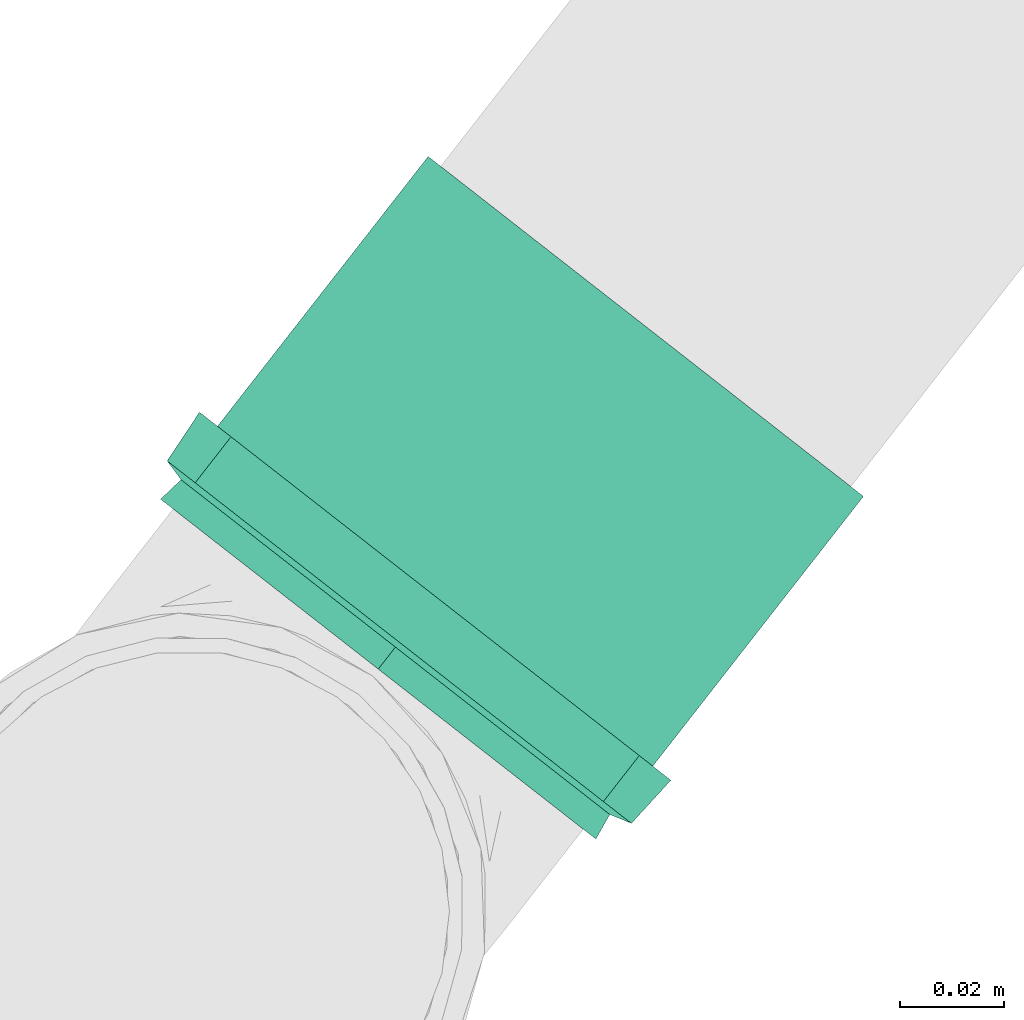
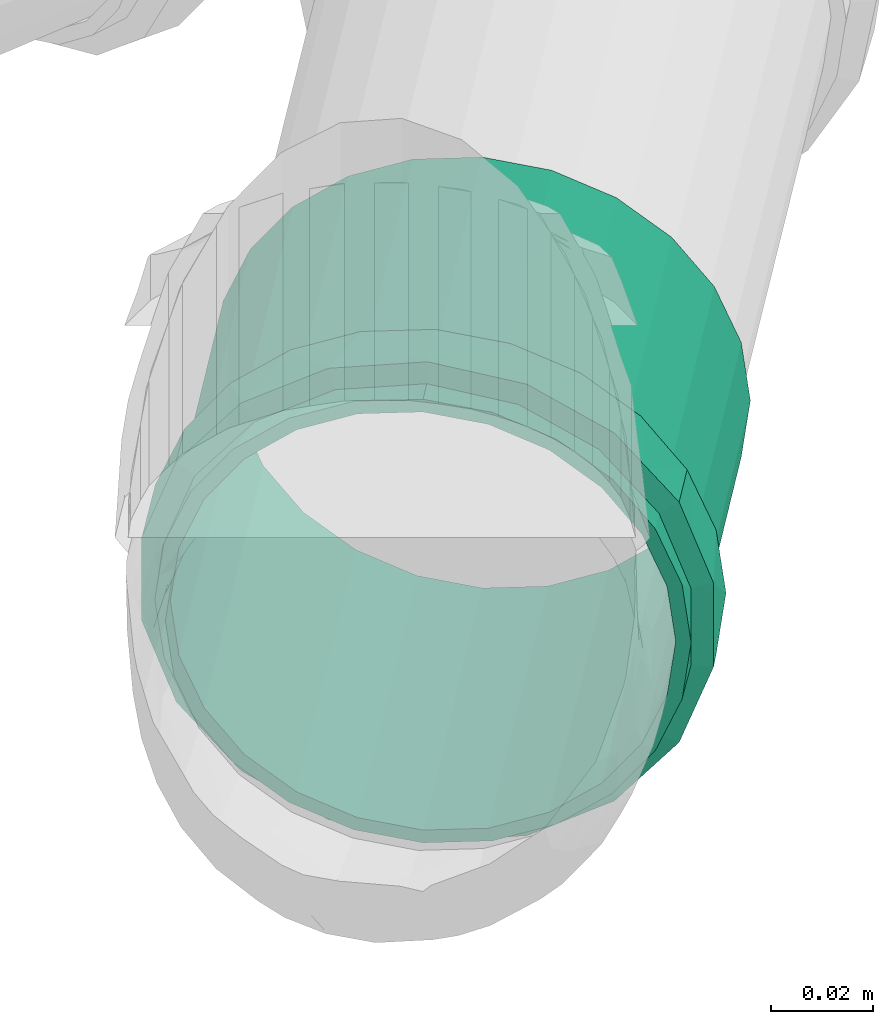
# One storey, part 23 of 97: 1 flow fitting.
"""IFC2X3 building model written with IfcOpenShell, lengths in centimetres."""

import ifcopenshell
import ifcopenshell.guid

model = None  # the IFC model being written
_history = None  # IfcOwnerHistory: only IFC2X3 demands one
_inside = {}  # id of a spatial element -> (the spatial element, [elements in it])
_under = {}  # id of a project, library or spatial element -> (it, [spatial elements below it])
_declared = {}  # id of a project -> (the project, [libraries it declares])
_typed = {}  # id of a type object -> (the type object, [elements of that type])
_made_of = {}  # id of a material, layer set ... -> (it, [elements and type objects made of it])


def new_model(schema):
    """Start an empty IFC model of exactly this schema.

    Asked for "IFC4X3", IfcOpenShell would pick the latest addendum, in which some entities
    have other attributes; the version numbers below select the first issue.
    IFC2X3 requires an IfcOwnerHistory on every rooted entity: one is made here for all.
    """
    global model, _history
    if schema == "IFC4X3":
        model = ifcopenshell.file(schema_version=(4, 3, 0, 0))
    else:
        model = ifcopenshell.file(schema=schema)
    _inside.clear()
    _under.clear()
    _declared.clear()
    _typed.clear()
    _made_of.clear()
    _history = None
    if model.schema == "IFC2X3":
        org = make("IfcOrganization", Name="unknown")
        user = make(
            "IfcPersonAndOrganization",
            ThePerson=make("IfcPerson", FamilyName="unknown"),
            TheOrganization=org,
        )
        app = make(
            "IfcApplication",
            ApplicationDeveloper=org,
            Version="unknown",
            ApplicationFullName="unknown",
            ApplicationIdentifier="unknown",
        )
        _history = make(
            "IfcOwnerHistory",
            OwningUser=user,
            OwningApplication=app,
            ChangeAction="ADDED",
            CreationDate=0,
        )
    return model


def make(cls, **values):
    """One entity of the class cls with the attributes given. An attribute that is None is left unset."""
    return model.create_entity(
        cls, **{name: value for name, value in values.items() if value is not None}
    )


def entity(cls, *values):
    """Any entity or typed value of the class cls, its attributes in the order of the schema. None: left unset."""
    e = model.create_entity(cls)
    for i, value in enumerate(values):
        if value is not None:
            e[i] = value
    return e


def rooted(cls, **values):
    """An entity with a GlobalId (a new one), such as an element, a storey or a relation."""
    return make(cls, GlobalId=ifcopenshell.guid.new(), OwnerHistory=_history, **values)


def si_unit(unit_type, name, prefix=None):
    """IfcSIUnit, for example si_unit("LENGTHUNIT", "METRE", prefix="MILLI")."""
    return make("IfcSIUnit", UnitType=unit_type, Prefix=prefix, Name=name)


def converted_unit(unit_type, name, factor, base, dimensions=None, offset=None):
    """IfcConversionBasedUnit, such as the inch: factor (a typed value) times the base unit."""
    return make(
        "IfcConversionBasedUnit"
        if offset is None
        else "IfcConversionBasedUnitWithOffset",
        ConversionOffset=offset,
        Dimensions=None
        if dimensions is None
        else entity("IfcDimensionalExponents", *dimensions),
        UnitType=unit_type,
        Name=name,
        ConversionFactor=make(
            "IfcMeasureWithUnit", ValueComponent=factor, UnitComponent=base
        ),
    )


def derived_unit(unit_type, elements):
    """IfcDerivedUnit: a product of units, each with its exponent."""
    return make(
        "IfcDerivedUnit",
        Elements=[
            make("IfcDerivedUnitElement", Unit=unit, Exponent=power)
            for unit, power in elements
        ],
        UnitType=unit_type,
    )


def assignment(units):
    """IfcUnitAssignment: the units of a project."""
    return None if units is None else make("IfcUnitAssignment", Units=units)


def point(xyz):
    """IfcCartesianPoint."""
    return None if xyz is None else make("IfcCartesianPoint", Coordinates=xyz)


def direction(xyz):
    """IfcDirection."""
    return None if xyz is None else make("IfcDirection", DirectionRatios=xyz)


def frame(location, z_axis=None, x_axis=None):
    """IfcAxis2Placement3D, a coordinate frame: its origin and axes. An axis left out is left unset."""
    return make(
        "IfcAxis2Placement3D",
        Location=point(location),
        Axis=direction(z_axis),
        RefDirection=direction(x_axis),
    )


def origin():
    """The frame at (0, 0, 0) with its axes left unset."""
    return frame((0.0, 0.0, 0.0))


def place(relative_to, where):
    """IfcLocalPlacement: puts the frame where relative to a parent placement (None: the world)."""
    return make(
        "IfcLocalPlacement", PlacementRelTo=relative_to, RelativePlacement=where
    )


def context(
    kind, dimensions, precision=None, world=None, true_north=None, identifier=None
):
    """IfcGeometricRepresentationContext, for example the 3D "Model" context."""
    return make(
        "IfcGeometricRepresentationContext",
        ContextIdentifier=identifier,
        ContextType=kind,
        CoordinateSpaceDimension=dimensions,
        Precision=precision,
        WorldCoordinateSystem=world,
        TrueNorth=true_north,
    )


def subcontext(parent, identifier, kind, view, scale=None):
    """IfcGeometricRepresentationSubContext, for example "Body" below "Model"."""
    return make(
        "IfcGeometricRepresentationSubContext",
        ContextIdentifier=identifier,
        ContextType=kind,
        ParentContext=parent,
        TargetScale=scale,
        TargetView=view,
    )


def project(units=None, contexts=None):
    """IfcProject with its units and contexts."""
    return rooted(
        "IfcProject",
        Name="project",
        RepresentationContexts=contexts,
        UnitsInContext=assignment(units),
    )


def spatial(cls, under=None, at=None, **own):
    """A site, building, storey or space (cls), placed at a placement, below another one or the project."""
    s = rooted(cls, ObjectPlacement=at, **own)
    if under is not None:
        _under.setdefault(under.id(), (under, []))[1].append(s)
    return s


def faces_of(points, faces, orient=None, outer=None):
    """IfcFace entities. A face is a list of loops; a loop is a list of indices into points, from 0.

    orient and outer hold one flag for each loop. By default every Orientation is true, the
    first loop of a face is its IfcFaceOuterBound and the others are IfcFaceBound.
    """
    made = []
    for i, loops in enumerate(faces):
        bounds = []
        for j, loop in enumerate(loops):
            is_outer = j == 0 if outer is None else outer[i][j]
            bounds.append(
                make(
                    "IfcFaceOuterBound" if is_outer else "IfcFaceBound",
                    Bound=make("IfcPolyLoop", Polygon=[points[k] for k in loop]),
                    Orientation=True if orient is None else orient[i][j],
                )
            )
        made.append(make("IfcFace", Bounds=bounds))
    return made


def faceted_brep(points, faces, orient=None, outer=None, voids=None):
    """IfcFacetedBrep: a solid bounded by flat faces; with voids (closed shells), ...WithVoids."""
    shared = [point(p) for p in points]
    hull = make("IfcClosedShell", CfsFaces=faces_of(shared, faces, orient, outer))
    if voids is None:
        return make("IfcFacetedBrep", Outer=hull)
    return make(
        "IfcFacetedBrepWithVoids",
        Outer=hull,
        Voids=[
            make(cls, CfsFaces=faces_of(shared, fs, o, b)) for cls, fs, o, b in voids
        ],
    )


def shape(context_of_items, identifier, shape_type, items):
    """IfcShapeRepresentation: the items that make up one representation, for example the "Body"."""
    return make(
        "IfcShapeRepresentation",
        ContextOfItems=context_of_items,
        RepresentationIdentifier=identifier,
        RepresentationType=shape_type,
        Items=items,
    )


def source(mapping_origin, context_of_items, identifier, shape_type, items):
    """IfcRepresentationMap: a shape defined once, which mapped items show again and again."""
    return make(
        "IfcRepresentationMap",
        MappingOrigin=mapping_origin,
        MappedRepresentation=shape(context_of_items, identifier, shape_type, items),
    )


def transform(
    local_origin,
    x_axis=None,
    y_axis=None,
    z_axis=None,
    scale=None,
    scale2=None,
    scale3=None,
    uniform=True,
):
    """IfcCartesianTransformationOperator3D, or its non-uniform kind. x_axis, y_axis, z_axis: its Axis1, 2, 3."""
    if uniform:
        return make(
            "IfcCartesianTransformationOperator3D",
            Axis1=direction(x_axis),
            Axis2=direction(y_axis),
            LocalOrigin=point(local_origin),
            Scale=scale,
            Axis3=direction(z_axis),
        )
    return make(
        "IfcCartesianTransformationOperator3DnonUniform",
        Axis1=direction(x_axis),
        Axis2=direction(y_axis),
        LocalOrigin=point(local_origin),
        Scale=scale,
        Axis3=direction(z_axis),
        Scale2=scale2,
        Scale3=scale3,
    )


def mapped(mapping_source, mapping_target):
    """IfcMappedItem: shows the shape of a source again, moved by a transform."""
    return make(
        "IfcMappedItem", MappingSource=mapping_source, MappingTarget=mapping_target
    )


def material(Name=None, Category=None):
    """IfcMaterial."""
    return make("IfcMaterial", Name=Name, Category=Category)


def made_of(thing, what):
    """Note that an element or type object is made of a material, layer set ...; save() writes the relation."""
    if what is not None:
        _made_of.setdefault(what.id(), (what, []))[1].append(thing)
    return thing


def type_object(cls, material=None, **own):
    """A type object (cls), such as IfcWallType, which elements share."""
    return made_of(rooted(cls, **own), material)


def type_shapes(of_type, sources):
    """Give a type object the sources (RepresentationMaps) that its elements show as mapped items."""
    of_type.RepresentationMaps = sources


def element(
    cls,
    number,
    at=None,
    inside=None,
    cuts=None,
    type_object=None,
    material=None,
    context=None,
    identifier="Body",
    shape_type=None,
    held_by="IfcProductDefinitionShape",
    body=None,
    shapes=None,
    **own,
):
    """One element of the class cls, such as IfcWall. Its Tag is "e" and its number.

    at: its placement. inside: the storey or other place that contains it. cuts: it is an
    opening in that element (IfcRelVoidsElement). A single representation is given by context,
    identifier, shape_type and body (its items); several are given by shapes. held_by: the class
    of the entity that holds the representations. save() writes the other relations.
    """
    e = rooted(cls, Tag="e%d" % number, ObjectPlacement=at, **own)
    if body is not None:
        shapes = [shape(context, identifier, shape_type, body)]
    if shapes is not None:
        e.Representation = make(held_by, Representations=shapes)
    if inside is not None:
        _inside.setdefault(inside.id(), (inside, []))[1].append(e)
    if cuts is not None:
        rooted(
            "IfcRelVoidsElement", RelatingBuildingElement=cuts, RelatedOpeningElement=e
        )
    if type_object is not None:
        _typed.setdefault(type_object.id(), (type_object, []))[1].append(e)
    return made_of(e, material)


def aggregate(whole, parts):
    """IfcRelAggregates: a whole, such as a stair, and the parts it consists of."""
    return rooted("IfcRelAggregates", RelatingObject=whole, RelatedObjects=parts)


def save(model, path):
    """Write the relations noted so far, then the file.

    IfcRelAggregates (storeys below a building ...), IfcRelContainedInSpatialStructure (elements
    in a storey), IfcRelDefinesByType, IfcRelAssociatesMaterial and IfcRelDeclares: one each for
    every whole, place, type object, material and project.
    """
    for whole, parts in _under.values():
        aggregate(whole, parts)
    for where, things in _inside.values():
        rooted(
            "IfcRelContainedInSpatialStructure",
            RelatedElements=things,
            RelatingStructure=where,
        )
    for kind, things in _typed.values():
        rooted("IfcRelDefinesByType", RelatedObjects=things, RelatingType=kind)
    for what, things in _made_of.values():
        rooted("IfcRelAssociatesMaterial", RelatedObjects=things, RelatingMaterial=what)
    for by, libraries in _declared.values():
        rooted("IfcRelDeclares", RelatingContext=by, RelatedDefinitions=libraries)
    model.write(path)


model = new_model("IFC2X3")

# Units and contexts
model_context = context("Model", 3, precision=0.001, world=origin(), true_north=direction((6.12303176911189e-17, 1.0)))
body_context = subcontext(model_context, "Body", "Model", "MODEL_VIEW")
ifc_project = project(units=[si_unit("LENGTHUNIT", "METRE", prefix="CENTI"), si_unit("AREAUNIT", "SQUARE_METRE"), si_unit("VOLUMEUNIT", "CUBIC_METRE"), converted_unit("PLANEANGLEUNIT", "DEGREE", entity("IfcRatioMeasure", 0.0174532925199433), si_unit("PLANEANGLEUNIT", "RADIAN"), dimensions=[0, 0, 0, 0, 0, 0, 0]), si_unit("MASSUNIT", "GRAM", prefix="KILO"), derived_unit("MASSDENSITYUNIT", [(si_unit("MASSUNIT", "GRAM", prefix="KILO"), 1), (si_unit("LENGTHUNIT", "METRE"), -3)]), derived_unit("MOMENTOFINERTIAUNIT", [(si_unit("LENGTHUNIT", "METRE"), 4)]), si_unit("TIMEUNIT", "SECOND"), si_unit("FREQUENCYUNIT", "HERTZ"), si_unit("THERMODYNAMICTEMPERATUREUNIT", "DEGREE_CELSIUS"), derived_unit("THERMALTRANSMITTANCEUNIT", [(si_unit("MASSUNIT", "GRAM", prefix="KILO"), 1), (si_unit("THERMODYNAMICTEMPERATUREUNIT", "KELVIN"), -1), (si_unit("TIMEUNIT", "SECOND"), -3)]), derived_unit("VOLUMETRICFLOWRATEUNIT", [(si_unit("LENGTHUNIT", "METRE"), 3), (si_unit("TIMEUNIT", "SECOND"), -1)]), si_unit("ELECTRICCURRENTUNIT", "AMPERE"), si_unit("ELECTRICVOLTAGEUNIT", "VOLT"), si_unit("POWERUNIT", "WATT"), si_unit("FORCEUNIT", "NEWTON", prefix="KILO"), si_unit("ILLUMINANCEUNIT", "LUX"), si_unit("LUMINOUSFLUXUNIT", "LUMEN"), si_unit("LUMINOUSINTENSITYUNIT", "CANDELA"), derived_unit("USERDEFINED", [(si_unit("MASSUNIT", "GRAM", prefix="KILO"), -1), (si_unit("LENGTHUNIT", "METRE"), -2), (si_unit("TIMEUNIT", "SECOND"), 3), (si_unit("LUMINOUSFLUXUNIT", "LUMEN"), 1)]), derived_unit("LINEARVELOCITYUNIT", [(si_unit("LENGTHUNIT", "METRE"), 1), (si_unit("TIMEUNIT", "SECOND"), -1)]), si_unit("PRESSUREUNIT", "PASCAL"), derived_unit("USERDEFINED", [(si_unit("LENGTHUNIT", "METRE"), -2), (si_unit("MASSUNIT", "GRAM", prefix="KILO"), 1), (si_unit("TIMEUNIT", "SECOND"), -2)]), derived_unit("LINEARFORCEUNIT", [(si_unit("MASSUNIT", "GRAM", prefix="KILO"), 1), (si_unit("LENGTHUNIT", "METRE"), 1), (si_unit("TIMEUNIT", "SECOND"), -2), (si_unit("LENGTHUNIT", "METRE"), -1)]), derived_unit("PLANARFORCEUNIT", [(si_unit("MASSUNIT", "GRAM", prefix="KILO"), 1), (si_unit("LENGTHUNIT", "METRE"), 1), (si_unit("TIMEUNIT", "SECOND"), -2), (si_unit("LENGTHUNIT", "METRE"), -2)])], contexts=[model_context])

# Site, building, storey
site_placement = place(None, origin())
site = spatial("IfcSite", under=ifc_project, at=site_placement, Name="Default", CompositionType="ELEMENT")
building_placement = place(site_placement, origin())
building = spatial("IfcBuilding", under=site, at=building_placement, Name="HIDROSSANITÁRIO", CompositionType="ELEMENT")
storey_placement = place(building_placement, frame((0.0, 0.0, -260.0)))
storey = spatial("IfcBuildingStorey", under=building, at=storey_placement, Name="TÉRREO-HID", CompositionType="ELEMENT", Elevation=-260.0)

# Flow fitting
ifc_material = material(Name="PVC Branco")
pipe_fitting_type = type_object("IfcPipeFittingType", Name="Luva Simples para Conexão - Serie Normal - Esgoto - MEP - Tigre:Standard", PredefinedType="NOTDEFINED", material=ifc_material)
shared_shape = source(origin(), body_context, "Body", "Brep", [
    faceted_brep([(1.77700000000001, 2.8725, -4.9753159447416), (1.77700000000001, 4.06232845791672, -4.06232845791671), (1.77700000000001, 2.65249999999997, -4.59426476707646), (1.77700000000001, 1.37303503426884, -5.12423650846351), (1.77700000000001, 1.48691541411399, -5.5492438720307), (1.77700000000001, 3.75120147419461, -3.75120147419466), (1.77700000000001, 4.9753159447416, -2.8725), (1.77700000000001, 4.59426476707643, -2.65250000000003), (1.77700000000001, 5.1242365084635, -1.37303503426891), (1.77700000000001, 5.5492438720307, -1.48691541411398), (1.77700000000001, 5.305, 0.0), (1.77700000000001, 5.745, 0.0), (1.77700000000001, 5.1242365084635, 1.3730350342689), (1.77700000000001, 5.54924387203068, 1.48691541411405), (1.77700000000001, 4.59426476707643, 2.65250000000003), (1.77700000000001, 4.97531594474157, 2.87250000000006), (1.77700000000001, 3.75120147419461, 3.75120147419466), (1.77700000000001, 4.06232845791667, 4.06232845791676), (1.77700000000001, 2.65249999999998, 4.59426476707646), (1.77700000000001, 2.87249999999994, 4.97531594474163), (1.77700000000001, 1.37303503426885, 5.12423650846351), (1.77700000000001, 1.48691541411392, 5.54924387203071), (1.77700000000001, 0.0, 5.305), (1.77700000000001, 0.0, 5.745), (1.77700000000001, -1.37303503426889, 5.1242365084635), (1.77700000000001, -1.48691541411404, 5.54924387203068), (1.77700000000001, -2.65250000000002, 4.59426476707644), (1.77700000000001, -2.87250000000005, 4.97531594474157), (1.77700000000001, -3.75120147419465, 3.75120147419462), (1.77700000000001, -4.06232845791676, 4.06232845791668), (1.77700000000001, -4.59426476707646, 2.65249999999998), (1.77700000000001, -4.97531594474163, 2.87249999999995), (1.77700000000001, -5.54924387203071, 1.48691541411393), (1.77700000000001, -5.12423650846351, 1.37303503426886), (1.77700000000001, -5.745, 0.0), (1.77700000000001, -5.305, 0.0), (1.77700000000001, -5.54924387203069, -1.486915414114), (1.77700000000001, -5.12423650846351, -1.37303503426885), (1.77700000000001, -4.97531594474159, -2.87250000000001), (1.77700000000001, -4.59426476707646, -2.65249999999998), (1.77700000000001, -4.06232845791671, -4.06232845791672), (1.77700000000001, -3.75120147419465, -3.75120147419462), (1.77700000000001, -2.87249999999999, -4.97531594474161), (1.77700000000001, -2.65250000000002, -4.59426476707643), (1.77700000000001, -1.48691541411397, -5.5492438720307), (1.77700000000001, -1.3730350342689, -5.1242365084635), (1.77700000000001, 0.0, -5.745), (1.77700000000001, 0.0, -5.305), (0.657000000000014, -1.93463887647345, 5.31665771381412), (0.657000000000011, -4.4007619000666, 3.69300957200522), (0.657000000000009, -4.89962626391, 2.82901737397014), (0.657000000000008, -5.39849062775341, 1.96502517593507), (0.657000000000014, -2.87216972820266, 4.97550661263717), (0.657000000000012, -3.63646581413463, 4.3342580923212), (0.657000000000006, -5.5717453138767, 0.982512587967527), (0.657000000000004, -5.745, 0.0), (0.657000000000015, -0.997108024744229, 5.65780881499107), (0.657000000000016, 0.998234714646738, 5.65761013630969), (0.657000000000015, 0.0005633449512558, 5.65770947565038), (0.657000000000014, 3.63732887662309, 4.33353383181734), (0.657000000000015, 1.93569761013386, 5.31627233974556), (0.657000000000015, 2.87316050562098, 4.97493454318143), (0.65700000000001, 5.39888184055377, 1.96395006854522), (0.657000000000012, 4.90018954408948, 2.82804159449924), (0.657000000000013, 4.40149724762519, 3.69213312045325), (0.657000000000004, 5.745, 0.0), (0.656999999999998, 4.40149724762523, -3.6921331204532), (0.657, 4.90018954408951, -2.82804159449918), (0.657000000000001, 5.39888184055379, -1.96395006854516), (0.656999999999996, 2.87316050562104, -4.9749345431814), (0.656999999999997, 3.63732887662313, -4.3335338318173), (0.656999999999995, 1.93569761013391, -5.31627233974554), (0.656999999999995, 0.998234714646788, -5.65761013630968), (0.656999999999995, -0.997108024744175, -5.65780881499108), (0.656999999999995, 0.000563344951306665, -5.65770947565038), (0.656999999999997, -3.6364658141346, -4.33425809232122), (0.656999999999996, -2.87216972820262, -4.9755066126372), (0.656999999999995, -1.9346388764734, -5.31665771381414), (0.657000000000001, -5.39849062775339, -1.96502517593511), (0.657, -4.89962626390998, -2.82901737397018), (0.656999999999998, -4.40076190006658, -3.69300957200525), (0.657000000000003, -5.5717453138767, -0.982512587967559), (8.35200000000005, 2.6525, -4.59426476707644), (8.35200000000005, 3.75120147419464, -3.75120147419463), (8.35200000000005, 2.49999999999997, -4.33012701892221), (8.35200000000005, 1.29409522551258, -4.82962913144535), (8.35200000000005, 1.37303503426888, -5.1242365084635), (8.35200000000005, 3.53553390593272, -3.53553390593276), (8.35200000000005, 4.59426476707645, -2.6525), (8.35200000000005, 4.33012701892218, -2.50000000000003), (8.35200000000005, 4.82962913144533, -1.29409522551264), (8.35200000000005, 5.12423650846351, -1.37303503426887), (8.35200000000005, 5.0, 0.0), (8.35200000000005, 5.305, 0.0), (8.35200000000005, 4.82962913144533, 1.29409522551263), (8.35200000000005, 5.12423650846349, 1.37303503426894), (8.35200000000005, 4.33012701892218, 2.50000000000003), (8.35200000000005, 4.59426476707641, 2.65250000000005), (8.35200000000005, 3.53553390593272, 3.53553390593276), (8.35200000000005, 3.75120147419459, 3.75120147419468), (8.35200000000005, 2.49999999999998, 4.33012701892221), (8.35200000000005, 2.65249999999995, 4.59426476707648), (8.35200000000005, 1.29409522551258, 4.82962913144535), (8.35200000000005, 1.37303503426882, 5.12423650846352), (8.35200000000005, 0.0, 5.0), (8.35200000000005, 0.0, 5.305), (8.35200000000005, -1.29409522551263, 4.82962913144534), (8.35200000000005, -1.37303503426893, 5.12423650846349), (8.35200000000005, -2.50000000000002, 4.33012701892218), (8.35200000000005, -2.65250000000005, 4.59426476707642), (8.35200000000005, -3.53553390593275, 3.53553390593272), (8.35200000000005, -3.75120147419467, 3.7512014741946), (8.35200000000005, -4.3301270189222, 2.49999999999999), (8.35200000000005, -4.59426476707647, 2.65249999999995), (8.35200000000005, -5.12423650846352, 1.37303503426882), (8.35200000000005, -4.82962913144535, 1.29409522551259), (8.35200000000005, -5.305, 0.0), (8.35200000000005, -5.0, 0.0), (8.35200000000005, -5.1242365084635, -1.37303503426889), (8.35200000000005, -4.82962913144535, -1.29409522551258), (8.35200000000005, -4.59426476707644, -2.65250000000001), (8.35200000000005, -4.3301270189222, -2.49999999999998), (8.35200000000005, -3.75120147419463, -3.75120147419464), (8.35200000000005, -3.53553390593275, -3.53553390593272), (8.35200000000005, -2.65249999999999, -4.59426476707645), (8.35200000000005, -2.50000000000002, -4.33012701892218), (8.35200000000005, -1.37303503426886, -5.12423650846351), (8.35200000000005, -1.29409522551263, -4.82962913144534), (8.35200000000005, 0.0, -5.305), (8.35200000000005, 0.0, -5.0), (0.0, 2.49999999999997, -4.33012701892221), (0.0, 3.75120147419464, -3.75120147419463), (0.0, 2.6525, -4.59426476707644), (0.0, 1.29409522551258, -4.82962913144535), (0.0, 3.53553390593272, -3.53553390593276), (0.0, 4.59426476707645, -2.6525), (0.0, 4.33012701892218, -2.50000000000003), (0.0, 4.82962913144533, -1.29409522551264), (0.0, 5.12423650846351, -1.37303503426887), (0.0, 5.0, 0.0), (0.0, 5.305, 0.0), (0.0, 4.82962913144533, 1.29409522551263), (0.0, 5.12423650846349, 1.37303503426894), (0.0, 4.33012701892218, 2.50000000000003), (0.0, 4.59426476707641, 2.65250000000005), (0.0, 3.53553390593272, 3.53553390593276), (0.0, 3.75120147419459, 3.75120147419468), (0.0, 2.49999999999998, 4.33012701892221), (0.0, 2.65249999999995, 4.59426476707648), (0.0, 1.29409522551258, 4.82962913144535), (0.0, 1.37303503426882, 5.12423650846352), (0.0, 0.0, 5.0), (0.0, 0.0, 5.305), (0.0, -1.29409522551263, 4.82962913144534), (0.0, -1.37303503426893, 5.12423650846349), (0.0, -2.50000000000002, 4.33012701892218), (0.0, -2.65250000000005, 4.59426476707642), (0.0, -3.53553390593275, 3.53553390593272), (0.0, -3.75120147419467, 3.7512014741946), (0.0, -4.3301270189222, 2.49999999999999), (0.0, -4.59426476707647, 2.65249999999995), (0.0, -5.12423650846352, 1.37303503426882), (0.0, -4.82962913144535, 1.29409522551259), (0.0, -5.305, 0.0), (0.0, -5.0, 0.0), (0.0, -5.1242365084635, -1.37303503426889), (0.0, -4.82962913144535, -1.29409522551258), (0.0, -4.59426476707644, -2.65250000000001), (0.0, -4.3301270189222, -2.49999999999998), (0.0, -3.75120147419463, -3.75120147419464), (0.0, -3.53553390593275, -3.53553390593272), (0.0, -2.65249999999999, -4.59426476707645), (0.0, -2.50000000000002, -4.33012701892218), (0.0, -1.37303503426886, -5.12423650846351), (0.0, -1.29409522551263, -4.82962913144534), (0.0, 0.0, -5.305), (0.0, 0.0, -5.0), (0.0, 1.37303503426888, -5.1242365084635), (0.537000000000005, -5.305, 0.0), (0.537000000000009, -4.98507989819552, 1.81438788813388), (0.537000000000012, -4.06390540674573, 3.4099410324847), (0.537000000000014, -2.65258010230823, 4.59421851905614), (0.537000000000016, -0.921325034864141, 5.22438371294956), (0.537000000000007, 5.1449924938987, 0.907324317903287), (0.537000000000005, 5.305, 0.0), (0.537000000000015, 2.65233979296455, 4.59435725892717), (0.537000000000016, 0.921051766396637, 5.22443189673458), (0.537000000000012, 4.06372704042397, 3.41015359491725), (0.537000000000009, 4.9849849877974, 1.81464863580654), (0.537000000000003, 5.14499249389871, -0.907324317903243), (0.537000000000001, 4.98498498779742, -1.81464863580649), (0.536999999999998, 4.063727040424, -3.41015359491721), (0.536999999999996, 2.6523397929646, -4.59435725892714), (0.536999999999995, 0.921051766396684, -5.22443189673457), (0.536999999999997, -2.6525801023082, -4.59421851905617), (0.536999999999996, -0.921325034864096, -5.22438371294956), (0.536999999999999, -4.0639054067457, -3.40994103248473), (0.537000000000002, -4.98507989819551, -1.81438788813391), (5.0, -5.0, 0.0), (5.0, 5.0, 0.0)], [[[0, 1, 2]], [[0, 2, 3]], [[3, 4, 0]], [[2, 1, 5]], [[6, 5, 1]], [[5, 6, 7]], [[7, 6, 8]], [[9, 8, 6]], [[9, 10, 8]], [[10, 9, 11]], [[12, 10, 11]], [[11, 13, 12]], [[12, 13, 14]], [[15, 14, 13]], [[14, 15, 16]], [[16, 15, 17]], [[18, 16, 17]], [[17, 19, 18]], [[18, 19, 20]], [[21, 20, 19]], [[20, 21, 22]], [[22, 21, 23]], [[22, 23, 24]], [[24, 23, 25]], [[24, 25, 26]], [[27, 26, 25]], [[27, 28, 26]], [[28, 27, 29]], [[29, 30, 28]], [[31, 30, 29]], [[30, 31, 32]], [[32, 33, 30]], [[34, 33, 32]], [[34, 35, 33]], [[36, 35, 34]], [[36, 37, 35]], [[37, 36, 38]], [[38, 39, 37]], [[39, 38, 40]], [[39, 40, 41]], [[40, 42, 41]], [[41, 42, 43]], [[43, 42, 44]], [[44, 45, 43]], [[46, 45, 44]], [[4, 47, 46]], [[46, 47, 45]], [[4, 3, 47]], [[48, 27, 25]], [[31, 29, 49]], [[31, 49, 50, 51]], [[52, 53, 27]], [[32, 51, 54]], [[54, 55, 34]], [[54, 34, 32]], [[25, 56, 48]], [[49, 29, 53]], [[23, 57, 58, 56]], [[59, 19, 17]], [[27, 53, 29]], [[48, 52, 27]], [[31, 51, 32]], [[57, 23, 21]], [[60, 19, 61]], [[15, 62, 63, 64]], [[19, 60, 21]], [[15, 13, 62]], [[17, 64, 59]], [[57, 21, 60]], [[23, 56, 25]], [[15, 64, 17]], [[13, 65, 62]], [[13, 11, 65]], [[59, 61, 19]], [[65, 11, 9]], [[6, 1, 66]], [[6, 66, 67, 68]], [[69, 70, 0]], [[68, 65, 9]], [[71, 69, 0]], [[71, 0, 4]], [[4, 72, 71]], [[66, 1, 70]], [[46, 73, 74, 72]], [[75, 76, 42]], [[0, 70, 1]], [[75, 42, 40]], [[6, 68, 9]], [[73, 46, 44]], [[77, 42, 76]], [[38, 78, 79, 80]], [[42, 77, 44]], [[38, 36, 78]], [[40, 80, 75]], [[73, 44, 77]], [[46, 72, 4]], [[38, 80, 40]], [[81, 78, 36]], [[55, 81, 34]], [[34, 81, 36]], [[82, 83, 84]], [[82, 84, 85]], [[85, 86, 82]], [[84, 83, 87]], [[88, 87, 83]], [[87, 88, 89]], [[89, 88, 90]], [[91, 90, 88]], [[91, 92, 90]], [[92, 91, 93]], [[94, 92, 93]], [[93, 95, 94]], [[94, 95, 96]], [[97, 96, 95]], [[96, 97, 98]], [[98, 97, 99]], [[100, 98, 99]], [[99, 101, 100]], [[100, 101, 102]], [[103, 102, 101]], [[102, 103, 104]], [[104, 103, 105]], [[104, 105, 106]], [[106, 105, 107]], [[106, 107, 108]], [[109, 108, 107]], [[110, 108, 109]], [[110, 109, 111]], [[111, 112, 110]], [[113, 112, 111]], [[112, 113, 114]], [[114, 115, 112]], [[116, 115, 114]], [[116, 117, 115]], [[118, 117, 116]], [[118, 119, 117]], [[119, 118, 120]], [[120, 121, 119]], [[121, 120, 122]], [[121, 122, 123]], [[122, 124, 123]], [[125, 123, 124]], [[125, 124, 126]], [[126, 127, 125]], [[128, 127, 126]], [[86, 129, 128]], [[128, 129, 127]], [[86, 85, 129]], [[130, 131, 132]], [[133, 130, 132]], [[134, 131, 130]], [[131, 134, 135]], [[136, 135, 134]], [[137, 135, 136]], [[135, 137, 138]], [[137, 139, 138]], [[140, 138, 139]], [[140, 139, 141]], [[141, 142, 140]], [[143, 142, 141]], [[142, 143, 144]], [[145, 144, 143]], [[146, 144, 145]], [[146, 145, 147]], [[147, 148, 146]], [[149, 148, 147]], [[148, 149, 150]], [[151, 150, 149]], [[152, 150, 151]], [[153, 152, 151]], [[154, 152, 153]], [[155, 154, 153]], [[154, 155, 156]], [[156, 155, 157]], [[158, 156, 157]], [[157, 159, 158]], [[158, 159, 160]], [[161, 160, 159]], [[159, 162, 161]], [[161, 162, 163]], [[162, 164, 163]], [[163, 164, 165]], [[164, 166, 165]], [[167, 165, 166]], [[166, 168, 167]], [[169, 167, 168]], [[170, 169, 168]], [[170, 171, 169]], [[171, 170, 172]], [[173, 171, 172]], [[172, 174, 173]], [[173, 174, 175]], [[174, 176, 175]], [[176, 133, 177]], [[175, 176, 177]], [[132, 177, 133]], [[161, 178, 179]], [[158, 180, 181]], [[179, 180, 160]], [[181, 182, 154]], [[179, 160, 161]], [[161, 163, 178]], [[35, 116, 114, 33]], [[183, 184, 140]], [[181, 156, 158]], [[158, 160, 180]], [[181, 154, 156]], [[182, 152, 154]], [[183, 140, 142]], [[185, 150, 186]], [[187, 146, 185]], [[142, 188, 183]], [[187, 188, 144]], [[185, 148, 150]], [[150, 152, 186]], [[187, 144, 146]], [[146, 148, 185]], [[188, 142, 144]], [[186, 152, 182]], [[189, 190, 138]], [[131, 191, 192]], [[190, 191, 135]], [[192, 193, 177]], [[190, 135, 138]], [[184, 189, 140]], [[192, 132, 131]], [[131, 135, 191]], [[192, 177, 132]], [[193, 175, 177]], [[140, 189, 138]], [[194, 173, 195]], [[196, 169, 194]], [[165, 197, 178]], [[196, 197, 167]], [[165, 178, 163]], [[35, 37, 118, 116]], [[194, 171, 173]], [[173, 175, 195]], [[196, 167, 169]], [[169, 171, 194]], [[197, 165, 167]], [[195, 175, 193]], [[115, 117, 198, 164, 162]], [[155, 108, 110, 157]], [[110, 112, 159, 157]], [[112, 115, 162, 159]], [[106, 108, 155, 153]], [[153, 151, 104, 106]], [[102, 104, 151, 149]], [[102, 149, 147, 100]], [[141, 94, 96, 143]], [[96, 98, 145, 143]], [[98, 100, 147, 145]], [[92, 94, 141, 139, 199]], [[199, 139, 137, 90, 92]], [[87, 89, 136, 134]], [[134, 130, 84, 87]], [[89, 90, 137, 136]], [[85, 84, 130, 133]], [[133, 176, 129, 85]], [[127, 129, 176, 174]], [[127, 174, 172, 125]], [[166, 119, 121, 168]], [[121, 123, 170, 168]], [[123, 125, 172, 170]], [[117, 119, 166, 164, 198]], [[81, 178, 197]], [[190, 68, 67]], [[194, 75, 196]], [[193, 72, 74]], [[195, 77, 194]], [[79, 197, 196]], [[81, 55, 178]], [[192, 69, 71]], [[79, 78, 197]], [[194, 77, 76]], [[191, 66, 70]], [[80, 196, 75]], [[68, 190, 189]], [[74, 195, 193]], [[192, 71, 193]], [[190, 67, 191]], [[70, 192, 191]], [[65, 189, 184]], [[195, 73, 77]], [[193, 71, 72]], [[197, 78, 81]], [[191, 67, 66]], [[189, 65, 68]], [[196, 80, 79]], [[70, 69, 192]], [[194, 76, 75]], [[73, 195, 74]], [[65, 183, 62]], [[48, 56, 182]], [[58, 182, 56]], [[54, 51, 179]], [[59, 185, 61]], [[60, 186, 57]], [[53, 52, 181]], [[63, 187, 64]], [[58, 57, 186]], [[187, 63, 188]], [[186, 60, 185]], [[50, 49, 180]], [[185, 59, 187]], [[59, 64, 187]], [[182, 58, 186]], [[50, 179, 51]], [[54, 178, 55]], [[53, 180, 49]], [[63, 62, 188]], [[181, 48, 182]], [[183, 65, 184]], [[179, 50, 180]], [[178, 54, 179]], [[183, 188, 62]], [[180, 53, 181]], [[60, 61, 185]], [[48, 181, 52]], [[30, 33, 114, 113]], [[26, 28, 111, 109]], [[113, 111, 28, 30]], [[107, 24, 26, 109]], [[107, 105, 22, 24]], [[18, 20, 103, 101]], [[99, 16, 18, 101]], [[12, 14, 97, 95]], [[99, 97, 14, 16]], [[10, 12, 95, 93]], [[103, 20, 22, 105]], [[91, 8, 10, 93]], [[88, 7, 8, 91]], [[82, 86, 3, 2]], [[83, 5, 7, 88]], [[2, 5, 83, 82]], [[86, 128, 47, 3]], [[43, 45, 126, 124]], [[122, 41, 43, 124]], [[37, 39, 120, 118]], [[122, 120, 39, 41]], [[126, 45, 47, 128]]]),
])
type_shapes(pipe_fitting_type, [shared_shape])
flow_fitting_placement = place(storey_placement, frame((-1591.55853037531, 2946.6019957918, -35.1616948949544), z_axis=(0.788186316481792, -0.615436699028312, 0.0), x_axis=(0.615436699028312, 0.788186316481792, 0.0)))
element("IfcFlowFitting", 1, at=flow_fitting_placement, inside=storey, type_object=pipe_fitting_type, material=ifc_material, Name="Luva Simples para Conexão - Serie Normal - Esgoto - MEP - Tigre:Standard", ObjectType="Luva Simples para Conexão - Serie Normal - Esgoto - MEP - Tigre:Standard", context=body_context, shape_type="MappedRepresentation", body=[
    mapped(shared_shape, transform((0.0, 0.0, 0.0), scale=1.0)),
])

save(model, "model.ifc")
